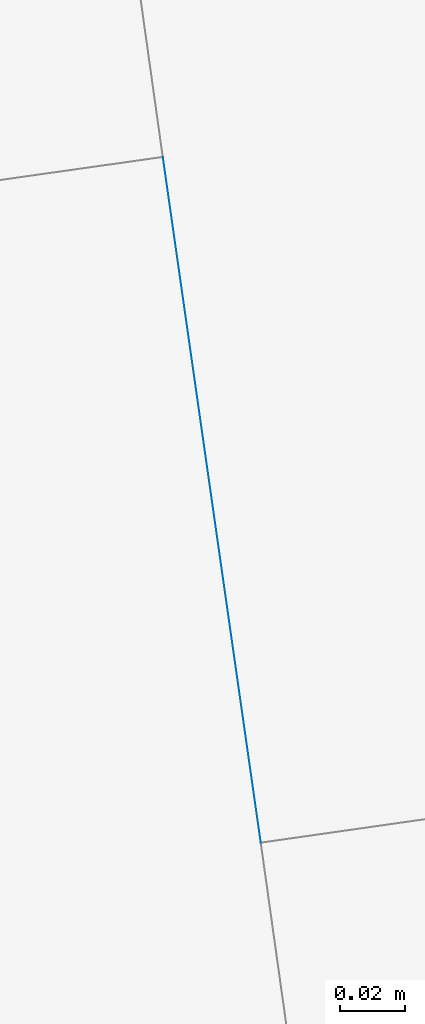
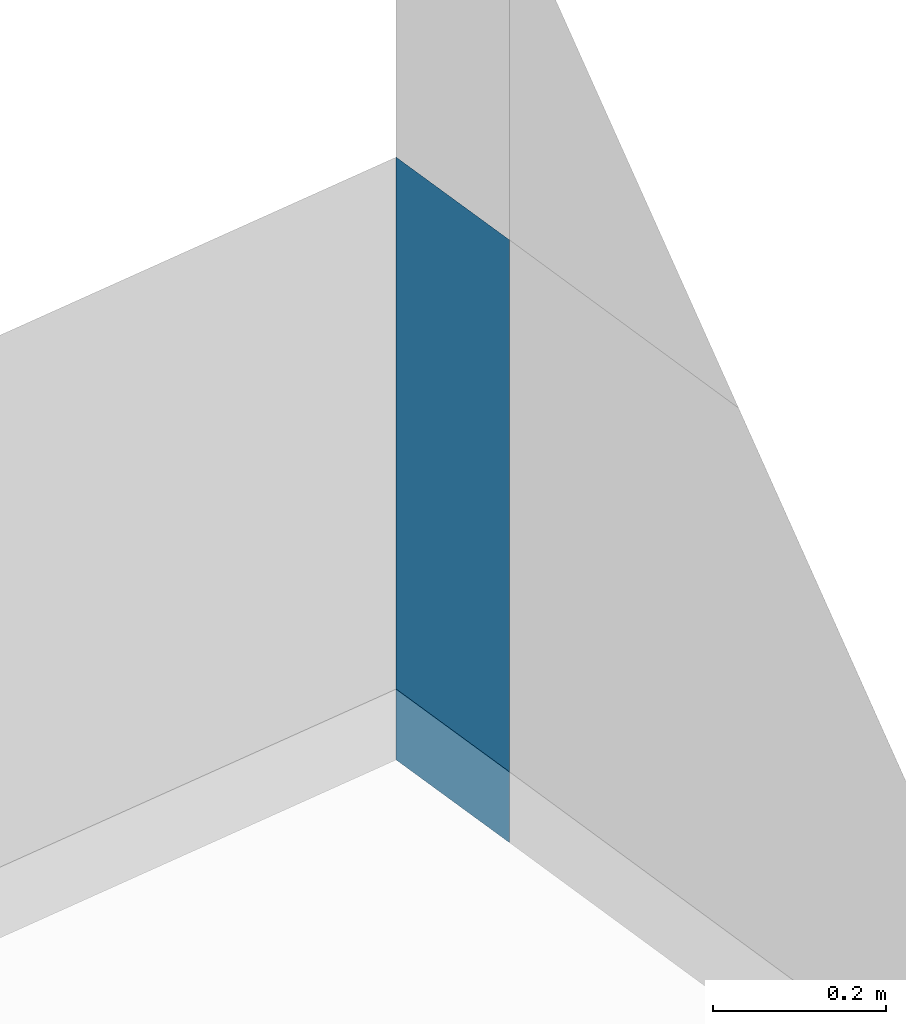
# Not in any storey, part 90 of 136: 3 walls.
"""IFC4 building model written with IfcOpenShell, lengths in metres."""

from ifc_helpers import new_model, entity, si_unit, converted_unit, frame, origin, place, context, subcontext, project, spatial, face_set, surface_model, element, save


model = new_model("IFC4")

# Units and contexts
model_context = context("Model", 3, precision=1e-05, world=origin())
body_context = subcontext(model_context, "Body", "Model", "MODEL_VIEW")
ifc_project = project(units=[converted_unit("PLANEANGLEUNIT", "DEGREE", entity("IfcRatioMeasure", 0.0174532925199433), si_unit("PLANEANGLEUNIT", "RADIAN"), dimensions=[0, 0, 0, 0, 0, 0, 0]), si_unit("AREAUNIT", "SQUARE_METRE"), si_unit("LENGTHUNIT", "METRE")], contexts=[model_context])

# Site, building
site_placement = place(None, origin())
site = spatial("IfcSite", under=ifc_project, at=site_placement, Name="_site")
building_placement = place(site_placement, origin())
building = spatial("IfcBuilding", under=site, at=building_placement, Name="_building")

# Walls
wall_placement = place(building_placement, origin())
element("IfcWall", 1, at=wall_placement, inside=building, Name="Wall", PredefinedType="NOTDEFINED", context=body_context, shape_type="SurfaceModel", body=[
    surface_model("IfcFaceBasedSurfaceModel", [(158.5, -56.03, 48.2), (158.53, -56.24, 48.2), (158.53, -56.24, 48.1), (158.5, -56.03, 48.1)], [face_set([[[0, 1, 2, 3]]])]),
])
for number, where, name in (
    (2, (0.0, 0.0, 0.0), "Wall"),
    (3, (0.0, 0.0, 0.0), "Wall"),
):
    element("IfcWall", number, at=place(building_placement, frame(where)), inside=building, Name=name, PredefinedType="NOTDEFINED", context=body_context, shape_type="SurfaceModel", body=[
        surface_model("IfcFaceBasedSurfaceModel", [(158.5, -56.03, 48.2), (158.53, -56.24, 48.2), (158.53, -56.24, 48.95), (158.5, -56.03, 48.95)], [face_set([[[0, 1, 2, 3]]])]),
    ])

save(model, "model.ifc")
